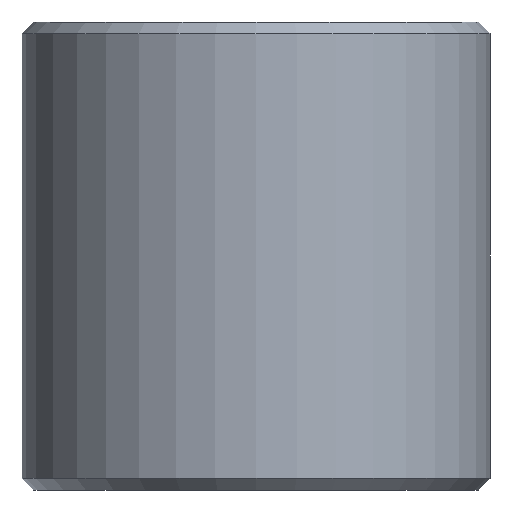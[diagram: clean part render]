
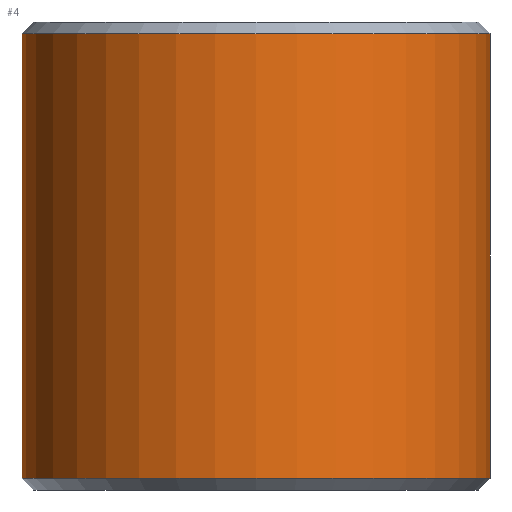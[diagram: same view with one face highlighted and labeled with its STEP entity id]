
A CAD part, front view. The second image highlights one B-rep face of the part: STEP entity #4.
In plain terms, the highlighted cylindrical face has radius 40 mm (diameter 80 mm), a partial arc.
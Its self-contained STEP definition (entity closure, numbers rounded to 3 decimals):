
#4 = ADVANCED_FACE ( 'NONE', ( #101 ), #107, .T. ) ;
#23 = CARTESIAN_POINT ( 'NONE',  ( 40., 0., -38. ) ) ;
#26 = AXIS2_PLACEMENT_3D ( 'NONE', #296, #189, #330 ) ;
#35 = ORIENTED_EDGE ( 'NONE', *, *, #222, .T. ) ;
#70 = DIRECTION ( 'NONE',  ( -1., 0., 0. ) ) ;
#90 = CARTESIAN_POINT ( 'NONE',  ( 40., 0., 40. ) ) ;
#95 = LINE ( 'NONE', #90, #278 ) ;
#101 = FACE_OUTER_BOUND ( 'NONE', #300, .T. ) ;
#107 = CYLINDRICAL_SURFACE ( 'NONE', #448, 40. ) ;
#109 = VECTOR ( 'NONE', #252, 1000. ) ;
#130 = CIRCLE ( 'NONE', #26, 40. ) ;
#150 = VERTEX_POINT ( 'NONE', #217 ) ;
#175 = AXIS2_PLACEMENT_3D ( 'NONE', #244, #207, #212 ) ;
#189 = DIRECTION ( 'NONE',  ( 0., 0., 1. ) ) ;
#196 = EDGE_CURVE ( 'NONE', #414, #329, #425, .T. ) ;
#204 = CARTESIAN_POINT ( 'NONE',  ( 0., 0., 40. ) ) ;
#207 = DIRECTION ( 'NONE',  ( 0., 0., -1. ) ) ;
#212 = DIRECTION ( 'NONE',  ( 1., 0., 0. ) ) ;
#217 = CARTESIAN_POINT ( 'NONE',  ( 40., 0., 38. ) ) ;
#221 = DIRECTION ( 'NONE',  ( 0., 0., -1. ) ) ;
#222 = EDGE_CURVE ( 'NONE', #150, #414, #379, .T. ) ;
#244 = CARTESIAN_POINT ( 'NONE',  ( 0., 0., 38. ) ) ;
#251 = ORIENTED_EDGE ( 'NONE', *, *, #196, .T. ) ;
#252 = DIRECTION ( 'NONE',  ( 0., 0., -1. ) ) ;
#265 = EDGE_CURVE ( 'NONE', #329, #445, #130, .T. ) ;
#278 = VECTOR ( 'NONE', #221, 1000. ) ;
#296 = CARTESIAN_POINT ( 'NONE',  ( 0., 0., -38. ) ) ;
#297 = CARTESIAN_POINT ( 'NONE',  ( -40., 0., -38. ) ) ;
#300 = EDGE_LOOP ( 'NONE', ( #314, #35, #251, #400 ) ) ;
#307 = DIRECTION ( 'NONE',  ( 0., 0., -1. ) ) ;
#314 = ORIENTED_EDGE ( 'NONE', *, *, #422, .F. ) ;
#329 = VERTEX_POINT ( 'NONE', #297 ) ;
#330 = DIRECTION ( 'NONE',  ( 1., 0., 0. ) ) ;
#379 = CIRCLE ( 'NONE', #175, 40. ) ;
#400 = ORIENTED_EDGE ( 'NONE', *, *, #265, .T. ) ;
#408 = CARTESIAN_POINT ( 'NONE',  ( -40., 0., 38. ) ) ;
#414 = VERTEX_POINT ( 'NONE', #408 ) ;
#422 = EDGE_CURVE ( 'NONE', #150, #445, #95, .T. ) ;
#425 = LINE ( 'NONE', #431, #109 ) ;
#431 = CARTESIAN_POINT ( 'NONE',  ( -40., 0., 40. ) ) ;
#445 = VERTEX_POINT ( 'NONE', #23 ) ;
#448 = AXIS2_PLACEMENT_3D ( 'NONE', #204, #307, #70 ) ;
